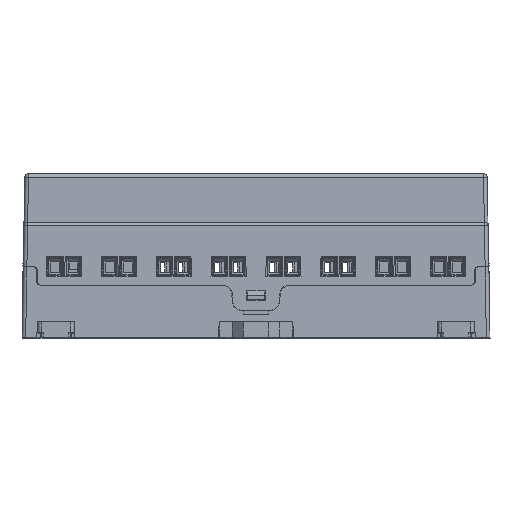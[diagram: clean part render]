
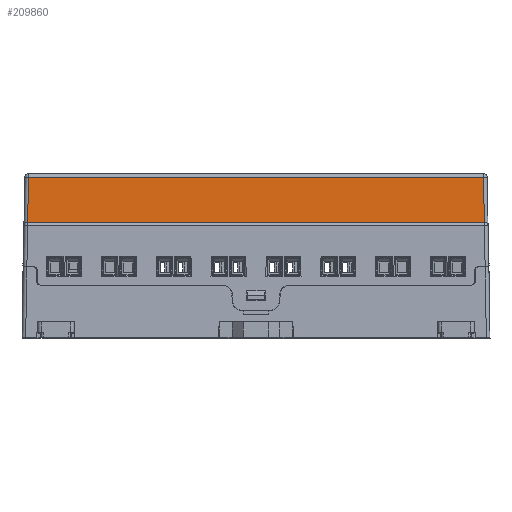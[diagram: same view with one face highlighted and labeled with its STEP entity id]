
A CAD part, top view. The second image highlights one B-rep face of the part: STEP entity #209860.
In plain terms, the highlighted planar face has unit normal (0, 0.018, 1).
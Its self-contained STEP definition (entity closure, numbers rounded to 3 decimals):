
#344 = DIRECTION ( 'NONE',  ( -0.017, -1., 0.017 ) ) ;
#10321 = VECTOR ( 'NONE', #344, 1000. ) ;
#20279 = LINE ( 'NONE', #91472, #204595 ) ;
#20373 = DIRECTION ( 'NONE',  ( -0.017, 1., -0.017 ) ) ;
#27278 = VERTEX_POINT ( 'NONE', #43962 ) ;
#34171 = VERTEX_POINT ( 'NONE', #105953 ) ;
#37659 = VERTEX_POINT ( 'NONE', #161848 ) ;
#42627 = ORIENTED_EDGE ( 'NONE', *, *, #104365, .T. ) ;
#43962 = CARTESIAN_POINT ( 'NONE',  ( -103.115, 31.055, 34.5 ) ) ;
#49024 = AXIS2_PLACEMENT_3D ( 'NONE', #51630, #176399, #69525 ) ;
#51630 = CARTESIAN_POINT ( 'NONE',  ( -104.415, 31.055, 34.5 ) ) ;
#56866 = CARTESIAN_POINT ( 'NONE',  ( 21.785, 31.055, 34.5 ) ) ;
#67348 = ORIENTED_EDGE ( 'NONE', *, *, #88911, .T. ) ;
#68764 = PLANE ( 'NONE',  #49024 ) ;
#69525 = DIRECTION ( 'NONE',  ( 0., -1., 0.017 ) ) ;
#71395 = CARTESIAN_POINT ( 'NONE',  ( -103.116, 31.032, 34.5 ) ) ;
#72475 = LINE ( 'NONE', #142364, #167425 ) ;
#88911 = EDGE_CURVE ( 'NONE', #34171, #37659, #72475, .T. ) ;
#91472 = CARTESIAN_POINT ( 'NONE',  ( 21.746, 33.257, 34.462 ) ) ;
#104365 = EDGE_CURVE ( 'NONE', #27278, #145700, #193840, .T. ) ;
#105235 = LINE ( 'NONE', #71395, #10321 ) ;
#105953 = CARTESIAN_POINT ( 'NONE',  ( 21.57, 43.372, 34.285 ) ) ;
#112289 = DIRECTION ( 'NONE',  ( 1., 0., 0. ) ) ;
#113102 = EDGE_CURVE ( 'NONE', #145700, #34171, #20279, .T. ) ;
#118638 = ORIENTED_EDGE ( 'NONE', *, *, #113102, .T. ) ;
#137885 = ORIENTED_EDGE ( 'NONE', *, *, #194448, .T. ) ;
#142364 = CARTESIAN_POINT ( 'NONE',  ( -103.883, 43.372, 34.285 ) ) ;
#145700 = VERTEX_POINT ( 'NONE', #56866 ) ;
#146395 = VECTOR ( 'NONE', #112289, 1000. ) ;
#161848 = CARTESIAN_POINT ( 'NONE',  ( -102.9, 43.372, 34.285 ) ) ;
#167425 = VECTOR ( 'NONE', #178133, 1000. ) ;
#176399 = DIRECTION ( 'NONE',  ( 0., 0.017, 1. ) ) ;
#178133 = DIRECTION ( 'NONE',  ( -1., 0., 0. ) ) ;
#193840 = LINE ( 'NONE', #201162, #146395 ) ;
#194448 = EDGE_CURVE ( 'NONE', #37659, #27278, #105235, .T. ) ;
#201162 = CARTESIAN_POINT ( 'NONE',  ( -104.415, 31.055, 34.5 ) ) ;
#204595 = VECTOR ( 'NONE', #20373, 1000. ) ;
#209860 = ADVANCED_FACE ( 'NONE', ( #218638 ), #68764, .T. ) ;
#218638 = FACE_OUTER_BOUND ( 'NONE', #227576, .T. ) ;
#227576 = EDGE_LOOP ( 'NONE', ( #67348, #137885, #42627, #118638 ) ) ;
